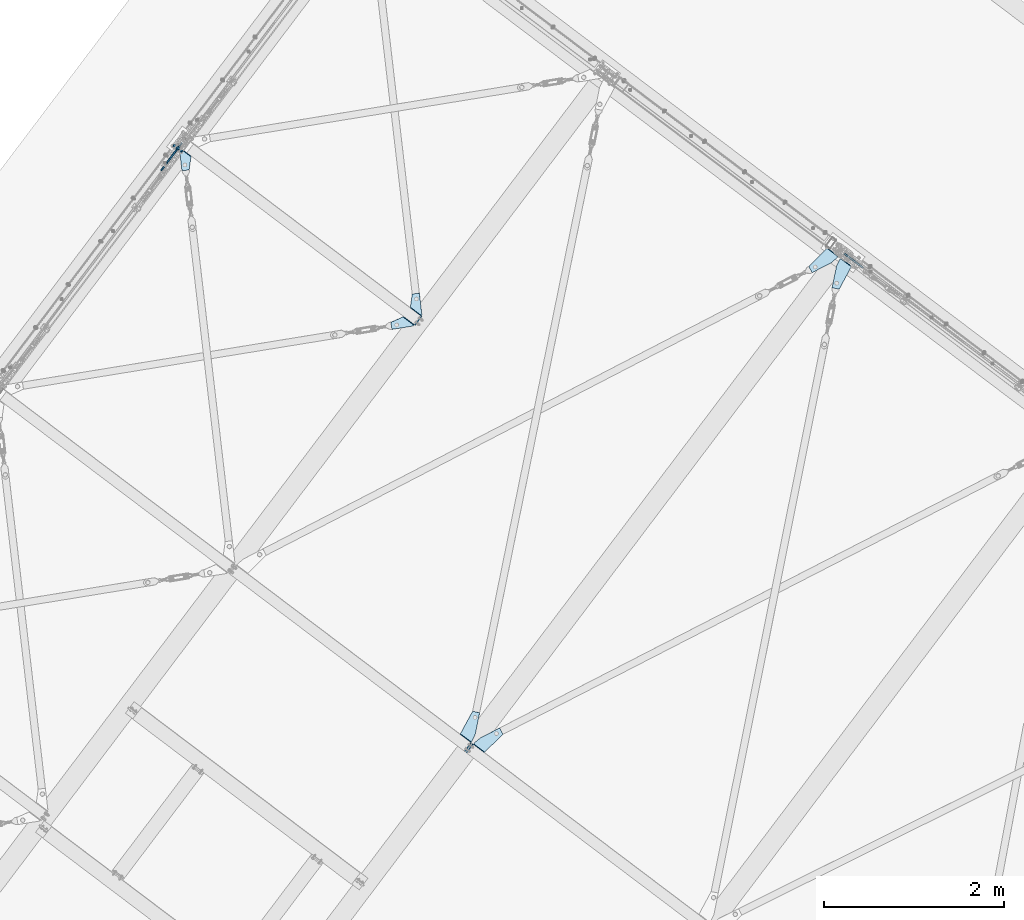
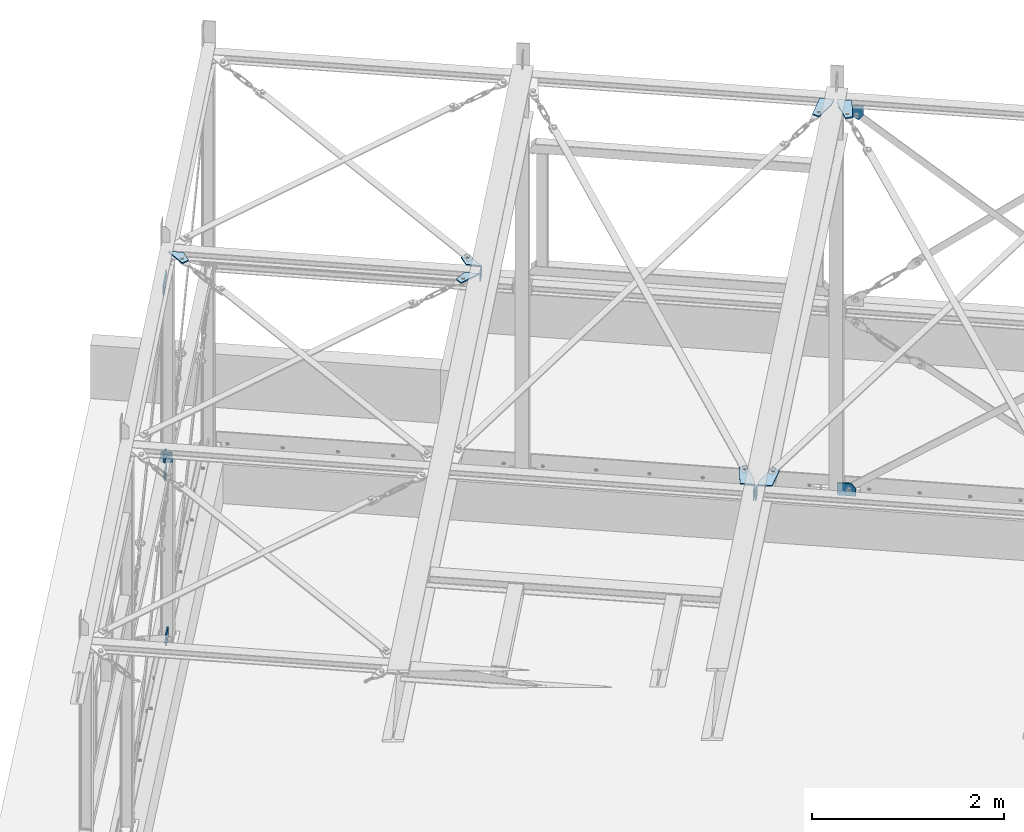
# One storey, part 59 of 476: 18 plates, 52 openings.
"""IFC2X3 building model written with IfcOpenShell, lengths in millimetres."""

from ifc_helpers import new_model, entity, si_unit, converted_unit, point, frame, frame_2d, origin, origin_with_axes, origin_2d_with_axis, place, context, project, spatial, polyline, circle_curve, line_curve, trimmed, segment, composite_curve, circle, outline, extrude, material, layer, layer_set, element, save


model = new_model("IFC2X3")

# Units and contexts
model_context = context("Model", 3, precision=1e-09, world=origin_with_axes())
ifc_project = project(units=[si_unit("LENGTHUNIT", "METRE", prefix="MILLI"), si_unit("AREAUNIT", "SQUARE_METRE"), si_unit("VOLUMEUNIT", "CUBIC_METRE"), converted_unit("PLANEANGLEUNIT", "DEGREE", entity("IfcPlaneAngleMeasure", 0.01745329), si_unit("PLANEANGLEUNIT", "RADIAN"), dimensions=[0, 0, 0, 0, 0, 0, 0])], contexts=[model_context])

# Site, building, storey
site_placement = place(None, origin_with_axes())
site = spatial("IfcSite", under=ifc_project, at=site_placement, Name="mKR Teilneubau & Sanierung BA1 - Ostfildern", CompositionType="ELEMENT")
building_placement = place(site_placement, origin_with_axes())
building = spatial("IfcBuilding", under=site, at=building_placement, Name="Struktur 1", CompositionType="ELEMENT")
storey_placement = place(building_placement, origin_with_axes())
storey = spatial("IfcBuildingStorey", under=building, at=storey_placement, Name="Default Storey", CompositionType="ELEMENT", Elevation=0.0)

# Plate, openings
ifc_material = material(Name="S235JR")
ifc_layer_1 = layer(ifc_material, 15.0)
ifc_layer_set_1 = layer_set([ifc_layer_1], Name="S235JR")
plate_1_placement = place(None, frame((13777.748220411, 7029.327751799, 5627.058643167), z_axis=(0.018098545, 0.02396011, -0.999549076), x_axis=(-0.602462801, -0.797581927, -0.030027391)))
plate_1 = element("IfcPlate", 1, at=plate_1_placement, inside=storey, material=ifc_layer_set_1, Name="-", ObjectType="-", context=model_context, shape_type="SweptSolid", body=[
    extrude(outline(polyline([(0.0, 0.0), (70.398485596, 0.0), (323.938469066, 121.203483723), (289.437598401, 193.381665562), (1.572e-05, 149.999963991), (0.0, 0.0)])), origin_with_axes(), (0.0, 0.0, 1.0), 15.0),
])
opening_1_placement = place(plate_1_placement, frame((0.0, 0.0, -0.01), z_axis=(0.0, 0.0, 1.0), x_axis=(1.0, 0.0, 0.0)))
element("IfcOpeningElement", 2, at=opening_1_placement, cuts=plate_1, ObjectType="Opening", context=model_context, shape_type="SweptSolid", body=[
    extrude(outline(composite_curve([segment(trimmed(line_curve((70.398485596, 0.0), (0.902210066, 0.431296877), 39.67855855), [point((70.398485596, 0.0))], [point((106.196880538, 17.113238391))], True, "CARTESIAN"), True, "CONTINUOUS"), segment(trimmed(circle_curve(frame_2d((30.719927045, 175.0), x_axis=(-1.0, 0.0)), 175.0), [point((106.196880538, 17.113238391))], [point((30.719927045, 0.0))], False, "CARTESIAN"), True, "CONTINUOUS"), segment(trimmed(line_curve((30.719927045, 0.0), (1.0, 0.0), 39.67855855), [point((30.719927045, 0.0))], [point((70.398485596, 0.0))], True, "CARTESIAN"), True, "CONTINUOUS")], self_intersect=False)), origin(), (0.0, 0.0, 1.0), 15.02),
])
opening_2_placement = place(plate_1_placement, frame((1.5846e-05, 151.200026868, 0.0), z_axis=(-1.05e-07, -1.0, 0.0), x_axis=(1.0, -1.05e-07, 0.0)))
element("IfcOpeningElement", 3, at=opening_2_placement, cuts=plate_1, ObjectType="Opening", context=model_context, shape_type="SweptSolid", body=[
    extrude(outline(polyline([(0.0, 0.0), (8.0, 0.0), (0.0, 8.0), (0.0, 0.0)])), origin(), (0.0, 0.0, 1.0), 151.22102603),
])
opening_3_placement = place(plate_1_placement, frame((252.555593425, 131.414864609, 15.499832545), z_axis=(-1.1849e-05, -5.664e-06, -1.0), x_axis=(-0.902210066, -0.431296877, 1.3134e-05)))
element("IfcOpeningElement", 4, at=opening_3_placement, cuts=plate_1, ObjectType="Opening", context=model_context, shape_type="SweptSolid", body=[
    extrude(circle(Radius=14.501, at=origin_2d_with_axis()), origin(), (0.0, 0.0, 1.0), 16.000000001),
])

plate_2_placement = place(None, frame((9691.170877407, 1619.234046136, 5423.379254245), z_axis=(-0.018098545, -0.02396011, 0.999549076), x_axis=(0.602462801, 0.797581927, 0.030027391)))
plate_2 = element("IfcPlate", 5, at=plate_2_placement, inside=storey, material=ifc_layer_set_1, Name="-", ObjectType="-", context=model_context, shape_type="SweptSolid", body=[
    extrude(outline(polyline([(0.0, 0.0), (70.398485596, 0.0), (323.938469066, 121.203483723), (289.437598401, 193.381665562), (1.572e-05, 149.999963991), (0.0, 0.0)])), origin_with_axes(), (0.0, 0.0, -1.0), 15.0),
])
opening_4_placement = place(plate_2_placement, frame((70.398485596, 0.0, 0.01), z_axis=(0.0, 0.0, 1.0), x_axis=(0.902210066, 0.431296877, 0.0)))
element("IfcOpeningElement", 6, at=opening_4_placement, cuts=plate_2, ObjectType="Opening", context=model_context, shape_type="SweptSolid", body=[
    extrude(outline(composite_curve([segment(trimmed(line_curve((0.0, 0.0), (1.0, 0.0), 39.67855855), [point((0.0, 0.0))], [point((39.67855855, 0.0))], True, "CARTESIAN"), True, "CONTINUOUS"), segment(trimmed(circle_curve(frame_2d((39.67855855, 175.0), x_axis=(-1.0, 0.0)), 175.0), [point((39.67855855, 0.0))], [point((-35.798394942, 17.113238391))], False, "CARTESIAN"), True, "CONTINUOUS"), segment(trimmed(line_curve((-35.798394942, 17.113238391), (0.902210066, -0.431296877), 39.67855855), [point((-35.798394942, 17.113238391))], [point((0.0, 0.0))], True, "CARTESIAN"), True, "CONTINUOUS")], self_intersect=False)), origin(), (0.0, 0.0, -1.0), 15.02),
])
opening_5_placement = place(plate_2_placement, frame((0.0, -0.000999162, 0.0), z_axis=(1.05e-07, 1.0, 0.0), x_axis=(1.0, -1.05e-07, 0.0)))
element("IfcOpeningElement", 7, at=opening_5_placement, cuts=plate_2, ObjectType="Opening", context=model_context, shape_type="SweptSolid", body=[
    extrude(outline(polyline([(0.0, 0.0), (8.0, 0.0), (0.0, 8.0), (0.0, 0.0)])), origin(), (0.0, 0.0, 1.0), 151.22102603),
])
opening_6_placement = place(plate_2_placement, frame((265.638541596, 137.669100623, -15.49964213), z_axis=(1.1849e-05, 5.664e-06, -1.0), x_axis=(-1.0, 0.0, -1.1849e-05)))
element("IfcOpeningElement", 8, at=opening_6_placement, cuts=plate_2, ObjectType="Opening", context=model_context, shape_type="SweptSolid", body=[
    extrude(circle(Radius=14.501, at=frame_2d((13.082948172, -6.254236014), x_axis=(1.0, 0.0))), origin(), (0.0, 0.0, -1.0), 16.000000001),
])

plate_3_placement = place(None, frame((13806.474431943, 7007.628635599, 5627.058750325), z_axis=(-0.018098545, -0.02396011, 0.999549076), x_axis=(-0.602462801, -0.797581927, -0.030027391)))
plate_3 = element("IfcPlate", 9, at=plate_3_placement, inside=storey, material=ifc_layer_set_1, Name="-", ObjectType="-", context=model_context, shape_type="SweptSolid", body=[
    extrude(outline(polyline([(0.0, 0.0), (69.510071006, 0.0), (323.508183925, 122.383902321), (288.782369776, 194.454130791), (1.572e-05, 149.999963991), (0.0, 0.0)])), origin_with_axes(), (0.0, 0.0, -1.0), 15.0),
])
opening_7_placement = place(plate_3_placement, frame((69.510071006, 0.0, 0.01), z_axis=(0.0, 0.0, 1.0), x_axis=(0.900878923, 0.434070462, 0.0)))
element("IfcOpeningElement", 10, at=opening_7_placement, cuts=plate_3, ObjectType="Opening", context=model_context, shape_type="SweptSolid", body=[
    extrude(outline(composite_curve([segment(trimmed(line_curve((0.0, 0.0), (1.0, 0.0), 39.961688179), [point((0.0, 0.0))], [point((39.961688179, 0.0))], True, "CARTESIAN"), True, "CONTINUOUS"), segment(trimmed(circle_curve(frame_2d((39.961688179, 175.0), x_axis=(-1.0, 0.0)), 175.0), [point((39.961688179, 0.0))], [point((-36.000642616, 17.346188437))], False, "CARTESIAN"), True, "CONTINUOUS"), segment(trimmed(line_curve((-36.000642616, 17.346188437), (0.900878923, -0.434070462), 39.961688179), [point((-36.000642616, 17.346188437))], [point((0.0, 0.0))], True, "CARTESIAN"), True, "CONTINUOUS")], self_intersect=False)), origin(), (0.0, 0.0, -1.0), 15.02),
])
opening_8_placement = place(plate_3_placement, frame((0.0, -0.000999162, 0.0), z_axis=(1.05e-07, 1.0, 0.0), x_axis=(1.0, -1.05e-07, 0.0)))
element("IfcOpeningElement", 11, at=opening_8_placement, cuts=plate_3, ObjectType="Opening", context=model_context, shape_type="SweptSolid", body=[
    extrude(outline(polyline([(0.0, 0.0), (8.0, 0.0), (0.0, 8.0), (0.0, 0.0)])), origin(), (0.0, 0.0, 1.0), 151.253456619),
])
opening_9_placement = place(plate_3_placement, frame((265.157700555, 138.669993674, -15.499621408), z_axis=(1.1814e-05, 5.692e-06, -1.0), x_axis=(-1.0, 0.0, -1.1814e-05)))
element("IfcOpeningElement", 12, at=opening_9_placement, cuts=plate_3, ObjectType="Opening", context=model_context, shape_type="SweptSolid", body=[
    extrude(circle(Radius=14.501, at=frame_2d((13.063645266, -6.294455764), x_axis=(1.0, 0.0))), origin(), (0.0, 0.0, -1.0), 16.000000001),
])

plate_4_placement = place(None, frame((6461.260366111, 8232.291784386, 5523.417277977), z_axis=(-0.018098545, -0.02396011, 0.999549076), x_axis=(-0.602462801, -0.797581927, -0.030027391)))
plate_4 = element("IfcPlate", 13, at=plate_4_placement, inside=storey, material=ifc_layer_set_1, Name="-", ObjectType="-", context=model_context, shape_type="SweptSolid", body=[
    extrude(outline(polyline([(0.0, 0.0), (16.761939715, 0.0), (192.636873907, 167.974256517), (137.382787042, 225.827096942), (1.572e-05, 149.999963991), (0.0, 0.0)])), origin_with_axes(), (0.0, 0.0, -1.0), 15.0),
])
opening_10_placement = place(plate_4_placement, frame((0.0, -0.000999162, 0.0), z_axis=(1.05e-07, 1.0, 0.0), x_axis=(1.0, -1.05e-07, 0.0)))
element("IfcOpeningElement", 14, at=opening_10_placement, cuts=plate_4, ObjectType="Opening", context=model_context, shape_type="SweptSolid", body=[
    extrude(outline(polyline([(0.0, 0.0), (8.0, 0.0), (0.0, 8.0), (0.0, 0.0)])), origin(), (0.0, 0.0, 1.0), 154.437489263),
])
opening_11_placement = place(plate_4_placement, frame((121.62025065, 155.460173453, -15.499862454), z_axis=(-7.613e-06, -7.271e-06, 1.0), x_axis=(-0.723163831, -0.690676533, -1.0527e-05)))
element("IfcOpeningElement", 15, at=opening_11_placement, cuts=plate_4, ObjectType="Opening", context=model_context, shape_type="SweptSolid", body=[
    extrude(circle(Radius=14.501, at=origin_2d_with_axis()), origin(), (0.0, 0.0, 1.0), 16.000000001),
])

plate_5_placement = place(None, frame((9065.102804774, 6265.449062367, 5523.417267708), z_axis=(0.018098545, 0.02396011, -0.999549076), x_axis=(-0.602462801, -0.797581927, -0.030027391)))
plate_5 = element("IfcPlate", 16, at=plate_5_placement, inside=storey, material=ifc_layer_set_1, Name="-", ObjectType="-", context=model_context, shape_type="SweptSolid", body=[
    extrude(outline(polyline([(0.0, 0.0), (16.761939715, 0.0), (192.636873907, 167.974256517), (137.382787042, 225.827096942), (1.572e-05, 149.999963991), (0.0, 0.0)])), origin_with_axes(), (0.0, 0.0, 1.0), 15.0),
])
opening_12_placement = place(plate_5_placement, frame((1.6183e-05, 154.416490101, 0.0), z_axis=(-1.05e-07, -1.0, 0.0), x_axis=(1.0, -1.05e-07, 0.0)))
element("IfcOpeningElement", 17, at=opening_12_placement, cuts=plate_5, ObjectType="Opening", context=model_context, shape_type="SweptSolid", body=[
    extrude(outline(polyline([(0.0, 0.0), (8.0, 0.0), (0.0, 8.0), (0.0, 0.0)])), origin(), (0.0, 0.0, 1.0), 154.437489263),
])
opening_13_placement = place(plate_5_placement, frame((132.106849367, 165.475673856, 15.499697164), z_axis=(7.613e-06, 7.271e-06, 1.0), x_axis=(1.0, 0.0, -7.613e-06)))
element("IfcOpeningElement", 18, at=opening_13_placement, cuts=plate_5, ObjectType="Opening", context=model_context, shape_type="SweptSolid", body=[
    extrude(circle(Radius=14.501, at=frame_2d((-10.486598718, -10.015500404), x_axis=(1.0, 0.0))), origin(), (0.0, 0.0, -1.0), 16.000000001),
])

plate_6_placement = place(None, frame((9137.397877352, 6361.157792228, 5527.020519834), z_axis=(-0.018098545, -0.02396011, 0.999549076), x_axis=(0.602462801, 0.797581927, 0.030027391)))
plate_6 = element("IfcPlate", 19, at=plate_6_placement, inside=storey, material=ifc_layer_set_1, Name="-", ObjectType="-", context=model_context, shape_type="SweptSolid", body=[
    extrude(outline(polyline([(0.0, 0.0), (16.761939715, 0.0), (192.636873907, 167.974256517), (137.382787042, 225.827096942), (1.572e-05, 149.999963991), (0.0, 0.0)])), origin_with_axes(), (0.0, 0.0, -1.0), 15.0),
])
opening_14_placement = place(plate_6_placement, frame((0.0, -0.000999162, 0.0), z_axis=(1.05e-07, 1.0, 0.0), x_axis=(1.0, -1.05e-07, 0.0)))
element("IfcOpeningElement", 20, at=opening_14_placement, cuts=plate_6, ObjectType="Opening", context=model_context, shape_type="SweptSolid", body=[
    extrude(outline(polyline([(0.0, 0.0), (8.0, 0.0), (0.0, 8.0), (0.0, 0.0)])), origin(), (0.0, 0.0, 1.0), 154.437489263),
])
opening_15_placement = place(plate_6_placement, frame((121.62025065, 155.460173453, -15.499849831), z_axis=(-7.613e-06, -7.271e-06, 1.0), x_axis=(-0.723163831, -0.690676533, -1.0527e-05)))
element("IfcOpeningElement", 21, at=opening_15_placement, cuts=plate_6, ObjectType="Opening", context=model_context, shape_type="SweptSolid", body=[
    extrude(circle(Radius=14.501, at=origin_2d_with_axis()), origin(), (0.0, 0.0, 1.0), 16.000000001),
])

plate_7_placement = place(None, frame((13849.689892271, 7061.682862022, 545.0), z_axis=(-0.602734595, -0.797941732, 0.0), x_axis=(0.797941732, -0.602734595, 0.0)))
plate_7 = element("IfcPlate", 22, at=plate_7_placement, inside=storey, material=ifc_layer_set_1, Name="-", ObjectType="-", context=model_context, shape_type="SweptSolid", body=[
    extrude(outline(polyline([(-17.154112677, 0.0), (179.999993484, 0.0), (179.999993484, 93.164694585), (133.615277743, 158.344892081), (-17.154119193, 158.344891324), (-17.154112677, 0.0)])), origin_with_axes(), (0.0, 0.0, 1.0), 15.0),
])
opening_16_placement = place(plate_7_placement, frame((107.922483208, 90.966259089, 15.5), z_axis=(0.0, 0.0, -1.0), x_axis=(1.0, 0.0, 0.0)))
element("IfcOpeningElement", 23, at=opening_16_placement, cuts=plate_7, ObjectType="Opening", context=model_context, shape_type="SweptSolid", body=[
    extrude(circle(Radius=16.001, at=origin_2d_with_axis()), origin(), (0.0, 0.0, 1.0), 16.0),
])
opening_17_placement = place(plate_7_placement, frame((0.0, 0.0, -0.01), z_axis=(0.0, 0.0, 1.0), x_axis=(1.0, 0.0, 0.0)))
element("IfcOpeningElement", 24, at=opening_17_placement, cuts=plate_7, ObjectType="Opening", context=model_context, shape_type="SweptSolid", body=[
    extrude(outline(polyline([(-17.154112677, 0.0), (2.845887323, 0.0), (-17.1541135, 20.0), (-17.154112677, 0.0)])), origin(), (0.0, 0.0, 1.0), 15.02),
])

# Plate, opening
plate_8_placement = place(None, frame((13904.561530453, 7001.43656502, 5514.988683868), z_axis=(0.602734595, 0.797941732, 0.0), x_axis=(0.797941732, -0.602734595, 0.0)))
plate_8 = element("IfcPlate", 25, at=plate_8_placement, inside=storey, material=ifc_layer_set_1, Name="-", ObjectType="-", context=model_context, shape_type="SweptSolid", body=[
    extrude(outline(polyline([(-82.000010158, 0.0), (179.999993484, 0.0), (179.999993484, 115.705558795), (130.034880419, 178.183457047), (-82.000010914, 50.0), (-82.000010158, 0.0)])), origin_with_axes(), (0.0, 0.0, 1.0), 15.0),
])
opening_18_placement = place(plate_8_placement, frame((108.159013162, 109.47067545, -0.5), z_axis=(0.0, 0.0, 1.0), x_axis=(1.0, 0.0, 0.0)))
element("IfcOpeningElement", 26, at=opening_18_placement, cuts=plate_8, ObjectType="Opening", context=model_context, shape_type="SweptSolid", body=[
    extrude(circle(Radius=16.001, at=origin_2d_with_axis()), origin(), (0.0, 0.0, 1.0), 16.0),
])

# Plate, openings
plate_9_placement = place(None, frame((9719.897525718, 1597.535466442, 5423.379382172), z_axis=(0.018098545, 0.02396011, -0.999549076), x_axis=(0.602462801, 0.797581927, 0.030027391)))
plate_9 = element("IfcPlate", 27, at=plate_9_placement, inside=storey, material=ifc_layer_set_1, Name="-", ObjectType="-", context=model_context, shape_type="SweptSolid", body=[
    extrude(outline(polyline([(0.0, 0.0), (69.510071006, 0.0), (323.508183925, 122.383902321), (288.782369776, 194.454130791), (1.572e-05, 149.999963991), (0.0, 0.0)])), origin_with_axes(), (0.0, 0.0, 1.0), 15.0),
])
opening_19_placement = place(plate_9_placement, frame((0.0, 0.0, -0.01), z_axis=(0.0, 0.0, 1.0), x_axis=(1.0, 0.0, 0.0)))
element("IfcOpeningElement", 28, at=opening_19_placement, cuts=plate_9, ObjectType="Opening", context=model_context, shape_type="SweptSolid", body=[
    extrude(outline(composite_curve([segment(trimmed(line_curve((69.510071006, 0.0), (0.900878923, 0.434070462), 39.961688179), [point((69.510071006, 0.0))], [point((105.510713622, 17.346188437))], True, "CARTESIAN"), True, "CONTINUOUS"), segment(trimmed(circle_curve(frame_2d((29.548382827, 175.0), x_axis=(-1.0, 0.0)), 175.0), [point((105.510713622, 17.346188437))], [point((29.548382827, 0.0))], False, "CARTESIAN"), True, "CONTINUOUS"), segment(trimmed(line_curve((29.548382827, 0.0), (1.0, 0.0), 39.961688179), [point((29.548382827, 0.0))], [point((69.510071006, 0.0))], True, "CARTESIAN"), True, "CONTINUOUS")], self_intersect=False)), origin(), (0.0, 0.0, 1.0), 15.02),
])
opening_20_placement = place(plate_9_placement, frame((1.585e-05, 151.232457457, 0.0), z_axis=(-1.05e-07, -1.0, 0.0), x_axis=(1.0, -1.05e-07, 0.0)))
element("IfcOpeningElement", 29, at=opening_20_placement, cuts=plate_9, ObjectType="Opening", context=model_context, shape_type="SweptSolid", body=[
    extrude(outline(polyline([(0.0, 0.0), (8.0, 0.0), (0.0, 8.0), (0.0, 0.0)])), origin(), (0.0, 0.0, 1.0), 151.253456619),
])
opening_21_placement = place(plate_9_placement, frame((252.094055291, 132.37553791, 15.499811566), z_axis=(-1.1814e-05, -5.692e-06, -1.0), x_axis=(-0.900878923, -0.434070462, 1.3114e-05)))
element("IfcOpeningElement", 30, at=opening_21_placement, cuts=plate_9, ObjectType="Opening", context=model_context, shape_type="SweptSolid", body=[
    extrude(circle(Radius=14.501, at=origin_2d_with_axis()), origin(), (0.0, 0.0, 1.0), 16.000000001),
])

# Plate, opening
plate_10_placement = place(None, frame((6429.14804703, 8208.52881352, 5312.193931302), z_axis=(-0.797941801, 0.602734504, 0.0), x_axis=(0.0, 0.0, -1.0)))
plate_10 = element("IfcPlate", 31, at=plate_10_placement, inside=storey, material=ifc_layer_set_1, Name="-", ObjectType="-", context=model_context, shape_type="SweptSolid", body=[
    extrude(outline(polyline([(0.0, 0.0), (50.0, 0.0), (164.148807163, 243.922415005), (99.714834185, 291.338268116), (8.756319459, 291.338268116), (0.0, 0.0)])), origin_with_axes(), (0.0, 0.0, 1.0), 15.0),
])
opening_22_placement = place(plate_10_placement, frame((96.369930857, 219.304861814, -0.5), z_axis=(0.0, 0.0, 1.0), x_axis=(0.592698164, 0.805424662, 0.0)))
element("IfcOpeningElement", 32, at=opening_22_placement, cuts=plate_10, ObjectType="Opening", context=model_context, shape_type="SweptSolid", body=[
    extrude(circle(Radius=16.001, at=origin_2d_with_axis()), origin(), (0.0, 0.0, 1.0), 16.0),
])

plate_11_placement = place(None, frame((6429.148030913, 8208.528825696, 2855.0), z_axis=(-0.797941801, 0.602734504, 0.0), x_axis=(0.0, 0.0, -1.0)))
plate_11 = element("IfcPlate", 33, at=plate_11_placement, inside=storey, material=ifc_layer_set_1, Name="-", ObjectType="-", context=model_context, shape_type="SweptSolid", body=[
    extrude(outline(polyline([(0.0, 0.0), (60.204013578, 0.0), (152.720460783, 134.709788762), (86.775053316, 179.999999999), (1e-09, 180.0), (0.0, 0.0)])), origin_with_axes(), (0.0, 0.0, 1.0), 15.0),
])
opening_23_placement = place(plate_11_placement, frame((85.681640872, 107.963457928, -0.5), z_axis=(0.0, 0.0, 1.0), x_axis=(0.56573719, 0.824585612, 0.0)))
element("IfcOpeningElement", 34, at=opening_23_placement, cuts=plate_11, ObjectType="Opening", context=model_context, shape_type="SweptSolid", body=[
    extrude(circle(Radius=16.001, at=origin_2d_with_axis()), origin(), (0.0, 0.0, 1.0), 16.0),
])

plate_12_placement = place(None, frame((6417.178903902, 8217.569843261, 2969.0), z_axis=(0.797941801, -0.602734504, 0.0), x_axis=(0.0, 0.0, 1.0)))
plate_12 = element("IfcPlate", 35, at=plate_12_placement, inside=storey, material=ifc_layer_set_1, Name="-", ObjectType="-", context=model_context, shape_type="SweptSolid", body=[
    extrude(outline(polyline([(0.0, 0.0), (62.543700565, 0.0), (157.031210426, 133.867745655), (91.67208628, 180.0), (0.0, 180.0), (0.0, 0.0)])), origin_with_axes(), (0.0, 0.0, 1.0), 15.0),
])
opening_24_placement = place(plate_12_placement, frame((89.752457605, 107.914529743, 15.499999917), z_axis=(0.0, 0.0, -1.0), x_axis=(0.576653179, 0.816989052, 0.0)))
element("IfcOpeningElement", 36, at=opening_24_placement, cuts=plate_12, ObjectType="Opening", context=model_context, shape_type="SweptSolid", body=[
    extrude(circle(Radius=16.001, at=origin_2d_with_axis()), origin(), (0.0, 0.0, 1.0), 16.0),
])

# Plate, openings
plate_13_placement = place(None, frame((6475.795437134, 8295.170481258, 544.999999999), z_axis=(0.797941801, -0.602734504, 0.0), x_axis=(0.0, 0.0, 1.0)))
plate_13 = element("IfcPlate", 37, at=plate_13_placement, inside=storey, material=ifc_layer_set_1, Name="-", ObjectType="-", context=model_context, shape_type="SweptSolid", body=[
    extrude(outline(polyline([(0.0, 0.0), (155.808276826, 0.0), (155.808276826, 153.459788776), (89.862869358, 198.75), (0.0, 138.75), (0.0, 0.0)])), origin_with_axes(), (0.0, 0.0, 1.0), 15.0),
])
opening_25_placement = place(plate_13_placement, frame((88.806634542, 126.687924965, 15.5), z_axis=(0.0, 0.0, -1.0), x_axis=(0.565737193, 0.82458561, 0.0)))
element("IfcOpeningElement", 38, at=opening_25_placement, cuts=plate_13, ObjectType="Opening", context=model_context, shape_type="SweptSolid", body=[
    extrude(circle(Radius=16.001, at=origin_2d_with_axis()), origin(), (0.0, 0.0, 1.0), 16.0),
])
opening_26_placement = place(plate_13_placement, frame((0.0, 0.0, -0.01), z_axis=(0.0, 0.0, 1.0), x_axis=(1.0, 0.0, 0.0)))
element("IfcOpeningElement", 39, at=opening_26_placement, cuts=plate_13, ObjectType="Opening", context=model_context, shape_type="SweptSolid", body=[
    extrude(outline(polyline([(0.0, 0.0), (20.0, 0.0), (0.0, 20.0), (0.0, 0.0)])), origin(), (0.0, 0.0, 1.0), 15.02),
])

plate_14_placement = place(None, frame((6423.164070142, 8213.05013242, 2912.000000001), z_axis=(0.602734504, 0.797941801, 0.0), x_axis=(0.0, 0.0, -1.0)))
plate_14 = element("IfcPlate", 40, at=plate_14_placement, inside=storey, material=ifc_layer_set_1, Name="Endplate#1", ObjectType="Endplate#1", context=model_context, shape_type="SweptSolid", body=[
    extrude(outline(polyline([(-62.0, -62.0), (62.0, -62.0), (62.0, 62.0), (-62.0, 62.0), (-62.0, -62.0)])), origin_with_axes(), (0.0, 0.0, 1.0), 15.0),
])
opening_27_placement = place(plate_14_placement, frame((-37.0, -14.5, 15.5), z_axis=(0.0, 0.0, -1.0), x_axis=(1.0, 0.0, 0.0)))
element("IfcOpeningElement", 41, at=opening_27_placement, cuts=plate_14, ObjectType="Opening", context=model_context, shape_type="SweptSolid", body=[
    extrude(circle(Radius=6.001, at=origin_2d_with_axis()), origin(), (0.0, 0.0, 1.0), 16.0),
])
opening_28_placement = place(plate_14_placement, frame((37.0, -14.5, 15.5), z_axis=(0.0, 0.0, -1.0), x_axis=(1.0, 0.0, 0.0)))
element("IfcOpeningElement", 42, at=opening_28_placement, cuts=plate_14, ObjectType="Opening", context=model_context, shape_type="SweptSolid", body=[
    extrude(circle(Radius=6.001, at=origin_2d_with_axis()), origin(), (0.0, 0.0, 1.0), 16.0),
])
opening_29_placement = place(plate_14_placement, frame((37.0, 14.5, 15.5), z_axis=(0.0, 0.0, -1.0), x_axis=(1.0, 0.0, 0.0)))
element("IfcOpeningElement", 43, at=opening_29_placement, cuts=plate_14, ObjectType="Opening", context=model_context, shape_type="SweptSolid", body=[
    extrude(circle(Radius=6.001, at=origin_2d_with_axis()), origin(), (0.0, 0.0, 1.0), 16.0),
])
opening_30_placement = place(plate_14_placement, frame((-37.0, 14.5, 15.5), z_axis=(0.0, 0.0, -1.0), x_axis=(1.0, 0.0, 0.0)))
element("IfcOpeningElement", 44, at=opening_30_placement, cuts=plate_14, ObjectType="Opening", context=model_context, shape_type="SweptSolid", body=[
    extrude(circle(Radius=6.001, at=origin_2d_with_axis()), origin(), (0.0, 0.0, 1.0), 16.0),
])
opening_31_placement = place(plate_14_placement, frame((0.0, 30.0, 15.5), z_axis=(0.0, 0.0, -1.0), x_axis=(-1.0, 0.0, 0.0)))
element("IfcOpeningElement", 45, at=opening_31_placement, cuts=plate_14, ObjectType="Opening", context=model_context, shape_type="SweptSolid", body=[
    extrude(circle(Radius=7.001, at=origin_2d_with_axis()), origin(), (0.0, 0.0, 1.0), 16.0),
])
opening_32_placement = place(plate_14_placement, frame((0.0, -30.0, 15.5), z_axis=(0.0, 0.0, -1.0), x_axis=(0.0, -1.0, 0.0)))
element("IfcOpeningElement", 46, at=opening_32_placement, cuts=plate_14, ObjectType="Opening", context=model_context, shape_type="SweptSolid", body=[
    extrude(circle(Radius=7.001, at=origin_2d_with_axis()), origin(), (0.0, 0.0, 1.0), 16.0),
])

plate_15_placement = place(None, frame((6441.24610527, 8236.988386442, 2912.000000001), z_axis=(-0.602734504, -0.797941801, 0.0), x_axis=(-0.797941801, 0.602734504, 0.0)))
plate_15 = element("IfcPlate", 47, at=plate_15_placement, inside=storey, material=ifc_layer_set_1, Name="T-plate", ObjectType="T-plate", context=model_context, shape_type="SweptSolid", body=[
    extrude(outline(polyline([(-62.0, -62.0), (62.0, -62.0), (62.0, 62.0), (-62.0, 62.0), (-62.0, -62.0)])), origin_with_axes(), (0.0, 0.0, 1.0), 15.0),
])
opening_33_placement = place(plate_15_placement, frame((-30.0, 0.0, -0.5), z_axis=(0.0, 0.0, 1.0), x_axis=(-1.0, 0.0, 0.0)))
element("IfcOpeningElement", 48, at=opening_33_placement, cuts=plate_15, ObjectType="Opening", context=model_context, shape_type="SweptSolid", body=[
    extrude(circle(Radius=7.001, at=origin_2d_with_axis()), origin(), (0.0, 0.0, 1.0), 16.0),
])
opening_34_placement = place(plate_15_placement, frame((30.0, 0.0, -0.5), z_axis=(0.0, 0.0, 1.0), x_axis=(0.0, -1.0, 0.0)))
element("IfcOpeningElement", 49, at=opening_34_placement, cuts=plate_15, ObjectType="Opening", context=model_context, shape_type="SweptSolid", body=[
    extrude(circle(Radius=7.001, at=origin_2d_with_axis()), origin(), (0.0, 0.0, 1.0), 16.0),
])

ifc_layer_2 = layer(ifc_material, 12.0)
ifc_layer_set_2 = layer_set([ifc_layer_2], Name="S235JR")
plate_16_placement = place(None, frame((9074.587038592, 6258.095228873, 5528.465417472), z_axis=(-0.797941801, 0.602734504, 0.0), x_axis=(0.602462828, 0.797582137, 0.03002126)))
plate_16 = element("IfcPlate", 50, at=plate_16_placement, inside=storey, material=ifc_layer_set_2, Name="Endplate", ObjectType="Endplate", context=model_context, shape_type="SweptSolid", body=[
    extrude(outline(polyline([(0.0, 0.0), (120.0, 0.0), (120.0, 124.0), (0.0, 124.0), (0.0, 0.0)])), origin_with_axes(), (0.0, 0.0, 1.0), 12.0),
])
opening_35_placement = place(plate_16_placement, frame((45.5, 99.0, -0.5), z_axis=(0.0, 0.0, 1.0), x_axis=(0.0, 1.0, 0.0)))
element("IfcOpeningElement", 51, at=opening_35_placement, cuts=plate_16, ObjectType="Opening", context=model_context, shape_type="SweptSolid", body=[
    extrude(circle(Radius=6.001, at=origin_2d_with_axis()), origin(), (0.0, 0.0, 1.0), 13.0),
])
opening_36_placement = place(plate_16_placement, frame((45.5, 25.0, -0.5), z_axis=(0.0, 0.0, 1.0), x_axis=(0.0, 1.0, 0.0)))
element("IfcOpeningElement", 52, at=opening_36_placement, cuts=plate_16, ObjectType="Opening", context=model_context, shape_type="SweptSolid", body=[
    extrude(circle(Radius=6.001, at=origin_2d_with_axis()), origin(), (0.0, 0.0, 1.0), 13.0),
])
opening_37_placement = place(plate_16_placement, frame((74.5, 25.0, -0.5), z_axis=(0.0, 0.0, 1.0), x_axis=(0.0, 1.0, 0.0)))
element("IfcOpeningElement", 53, at=opening_37_placement, cuts=plate_16, ObjectType="Opening", context=model_context, shape_type="SweptSolid", body=[
    extrude(circle(Radius=6.001, at=origin_2d_with_axis()), origin(), (0.0, 0.0, 1.0), 13.0),
])
opening_38_placement = place(plate_16_placement, frame((74.5, 99.0, -0.5), z_axis=(0.0, 0.0, 1.0), x_axis=(0.0, 1.0, 0.0)))
element("IfcOpeningElement", 54, at=opening_38_placement, cuts=plate_16, ObjectType="Opening", context=model_context, shape_type="SweptSolid", body=[
    extrude(circle(Radius=6.001, at=origin_2d_with_axis()), origin(), (0.0, 0.0, 1.0), 13.0),
])
opening_39_placement = place(plate_16_placement, frame((30.0, 62.0, -0.5), z_axis=(0.0, 0.0, 1.0), x_axis=(0.0, -1.0, 0.0)))
element("IfcOpeningElement", 55, at=opening_39_placement, cuts=plate_16, ObjectType="Opening", context=model_context, shape_type="SweptSolid", body=[
    extrude(circle(Radius=7.001, at=origin_2d_with_axis()), origin(), (0.0, 0.0, 1.0), 13.0),
])
opening_40_placement = place(plate_16_placement, frame((90.0, 62.0, -0.5), z_axis=(0.0, 0.0, 1.0), x_axis=(0.0, -1.0, 0.0)))
element("IfcOpeningElement", 56, at=opening_40_placement, cuts=plate_16, ObjectType="Opening", context=model_context, shape_type="SweptSolid", body=[
    extrude(circle(Radius=7.001, at=origin_2d_with_axis()), origin(), (0.0, 0.0, 1.0), 13.0),
])

plate_17_placement = place(None, frame((9628.361484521, 1516.172785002, 5424.772574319), z_axis=(-0.797941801, 0.602734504, 0.0), x_axis=(0.602462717, 0.79758199, 0.030027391)))
plate_17 = element("IfcPlate", 57, at=plate_17_placement, inside=storey, material=ifc_layer_set_2, Name="Endplate", ObjectType="Endplate", context=model_context, shape_type="SweptSolid", body=[
    extrude(outline(polyline([(0.0, 0.0), (120.0, 0.0), (120.0, 124.0), (0.0, 124.0), (0.0, 0.0)])), origin_with_axes(), (0.0, 0.0, 1.0), 12.0),
])
opening_41_placement = place(plate_17_placement, frame((30.0, 62.0, -0.5), z_axis=(0.0, 0.0, 1.0), x_axis=(0.0, -1.0, 0.0)))
element("IfcOpeningElement", 58, at=opening_41_placement, cuts=plate_17, ObjectType="Opening", context=model_context, shape_type="SweptSolid", body=[
    extrude(circle(Radius=7.001, at=origin_2d_with_axis()), origin(), (0.0, 0.0, 1.0), 13.0),
])
opening_42_placement = place(plate_17_placement, frame((90.0, 62.0, -0.5), z_axis=(0.0, 0.0, 1.0), x_axis=(0.0, -1.0, 0.0)))
element("IfcOpeningElement", 59, at=opening_42_placement, cuts=plate_17, ObjectType="Opening", context=model_context, shape_type="SweptSolid", body=[
    extrude(circle(Radius=7.001, at=origin_2d_with_axis()), origin(), (0.0, 0.0, 1.0), 13.0),
])
opening_43_placement = place(plate_17_placement, frame((45.5, 99.0, -0.5), z_axis=(0.0, 0.0, 1.0), x_axis=(0.0, 1.0, 0.0)))
element("IfcOpeningElement", 60, at=opening_43_placement, cuts=plate_17, ObjectType="Opening", context=model_context, shape_type="SweptSolid", body=[
    extrude(circle(Radius=6.001, at=origin_2d_with_axis()), origin(), (0.0, 0.0, 1.0), 13.0),
])
opening_44_placement = place(plate_17_placement, frame((45.5, 25.0, -0.5), z_axis=(0.0, 0.0, 1.0), x_axis=(0.0, 1.0, 0.0)))
element("IfcOpeningElement", 61, at=opening_44_placement, cuts=plate_17, ObjectType="Opening", context=model_context, shape_type="SweptSolid", body=[
    extrude(circle(Radius=6.001, at=origin_2d_with_axis()), origin(), (0.0, 0.0, 1.0), 13.0),
])
opening_45_placement = place(plate_17_placement, frame((74.5, 25.0, -0.5), z_axis=(0.0, 0.0, 1.0), x_axis=(0.0, 1.0, 0.0)))
element("IfcOpeningElement", 62, at=opening_45_placement, cuts=plate_17, ObjectType="Opening", context=model_context, shape_type="SweptSolid", body=[
    extrude(circle(Radius=6.001, at=origin_2d_with_axis()), origin(), (0.0, 0.0, 1.0), 13.0),
])
opening_46_placement = place(plate_17_placement, frame((74.5, 99.0, -0.5), z_axis=(0.0, 0.0, 1.0), x_axis=(0.0, 1.0, 0.0)))
element("IfcOpeningElement", 63, at=opening_46_placement, cuts=plate_17, ObjectType="Opening", context=model_context, shape_type="SweptSolid", body=[
    extrude(circle(Radius=6.001, at=origin_2d_with_axis()), origin(), (0.0, 0.0, 1.0), 13.0),
])

plate_18_placement = place(None, frame((9710.232309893, 1604.649806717, 5428.375861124), z_axis=(0.797941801, -0.602734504, 0.0), x_axis=(-0.602462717, -0.79758199, -0.030027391)))
plate_18 = element("IfcPlate", 64, at=plate_18_placement, inside=storey, material=ifc_layer_set_2, Name="Endplate", ObjectType="Endplate", context=model_context, shape_type="SweptSolid", body=[
    extrude(outline(polyline([(0.0, 0.0), (120.0, 0.0), (120.0, 124.0), (0.0, 124.0), (0.0, 0.0)])), origin_with_axes(), (0.0, 0.0, 1.0), 12.0),
])
opening_47_placement = place(plate_18_placement, frame((89.999996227, 62.0, 12.5), z_axis=(0.0, 0.0, -1.0), x_axis=(0.0, -1.0, 0.0)))
element("IfcOpeningElement", 65, at=opening_47_placement, cuts=plate_18, ObjectType="Opening", context=model_context, shape_type="SweptSolid", body=[
    extrude(circle(Radius=7.001, at=origin_2d_with_axis()), origin(), (0.0, 0.0, 1.0), 13.0),
])
opening_48_placement = place(plate_18_placement, frame((29.999996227, 62.0, 12.5), z_axis=(0.0, 0.0, -1.0), x_axis=(0.0, -1.0, 0.0)))
element("IfcOpeningElement", 66, at=opening_48_placement, cuts=plate_18, ObjectType="Opening", context=model_context, shape_type="SweptSolid", body=[
    extrude(circle(Radius=7.001, at=origin_2d_with_axis()), origin(), (0.0, 0.0, 1.0), 13.0),
])
opening_49_placement = place(plate_18_placement, frame((74.5, 99.0, -0.5), z_axis=(0.0, 0.0, 1.0), x_axis=(0.0, -1.0, 0.0)))
element("IfcOpeningElement", 67, at=opening_49_placement, cuts=plate_18, ObjectType="Opening", context=model_context, shape_type="SweptSolid", body=[
    extrude(circle(Radius=6.001, at=origin_2d_with_axis()), origin(), (0.0, 0.0, 1.0), 13.0),
])
opening_50_placement = place(plate_18_placement, frame((74.5, 25.0, -0.5), z_axis=(0.0, 0.0, 1.0), x_axis=(0.0, -1.0, 0.0)))
element("IfcOpeningElement", 68, at=opening_50_placement, cuts=plate_18, ObjectType="Opening", context=model_context, shape_type="SweptSolid", body=[
    extrude(circle(Radius=6.001, at=origin_2d_with_axis()), origin(), (0.0, 0.0, 1.0), 13.0),
])
opening_51_placement = place(plate_18_placement, frame((45.5, 25.0, -0.5), z_axis=(0.0, 0.0, 1.0), x_axis=(0.0, -1.0, 0.0)))
element("IfcOpeningElement", 69, at=opening_51_placement, cuts=plate_18, ObjectType="Opening", context=model_context, shape_type="SweptSolid", body=[
    extrude(circle(Radius=6.001, at=origin_2d_with_axis()), origin(), (0.0, 0.0, 1.0), 13.0),
])
opening_52_placement = place(plate_18_placement, frame((45.5, 99.0, -0.5), z_axis=(0.0, 0.0, 1.0), x_axis=(0.0, -1.0, 0.0)))
element("IfcOpeningElement", 70, at=opening_52_placement, cuts=plate_18, ObjectType="Opening", context=model_context, shape_type="SweptSolid", body=[
    extrude(circle(Radius=6.001, at=origin_2d_with_axis()), origin(), (0.0, 0.0, 1.0), 13.0),
])

save(model, "model.ifc")
